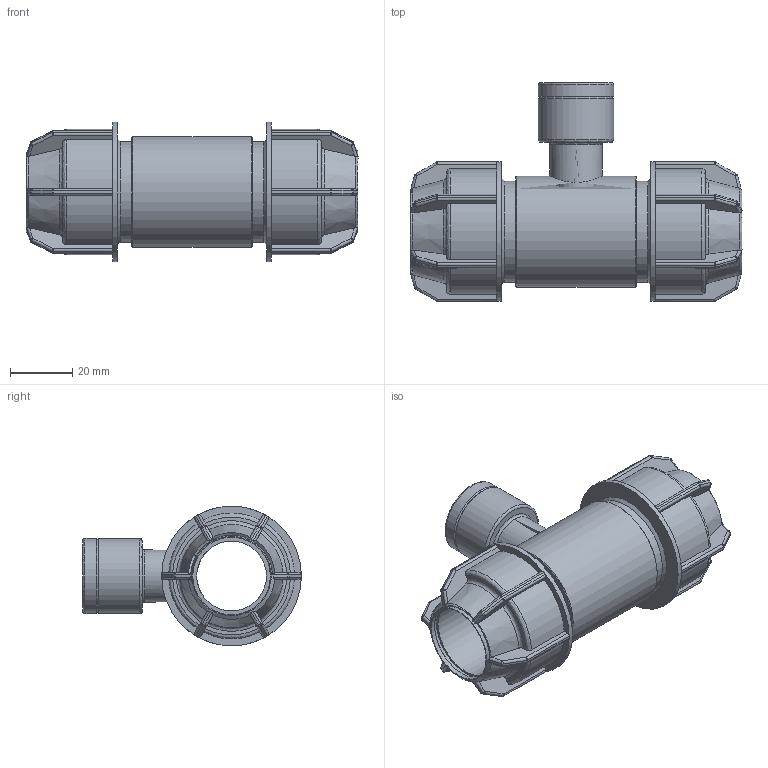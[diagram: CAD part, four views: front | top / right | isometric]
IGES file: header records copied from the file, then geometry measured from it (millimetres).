
Global section: file name: 041407025005.ipt; native system: Autodesk Inventor 2015; preprocessor: unknown; author: KIM; date: 20180409.130650; units: millimetre
Bounding box: 107 x 70.5 x 45 mm (x, y, z)
Volume: 68727 mm3; surface area: 29817.8 mm2
Topology: 1 solids, 1 shells, 416 faces, 993 edges, 584 vertices
Faces by surface type: plane 197, cylinder 116, sphere 48, revolution 39, cone 16
Full cylindrical faces by diameter (mm): 16.768 x1, 24.22 x2, 32.5 x2, 35.75 x1, 45 x2
